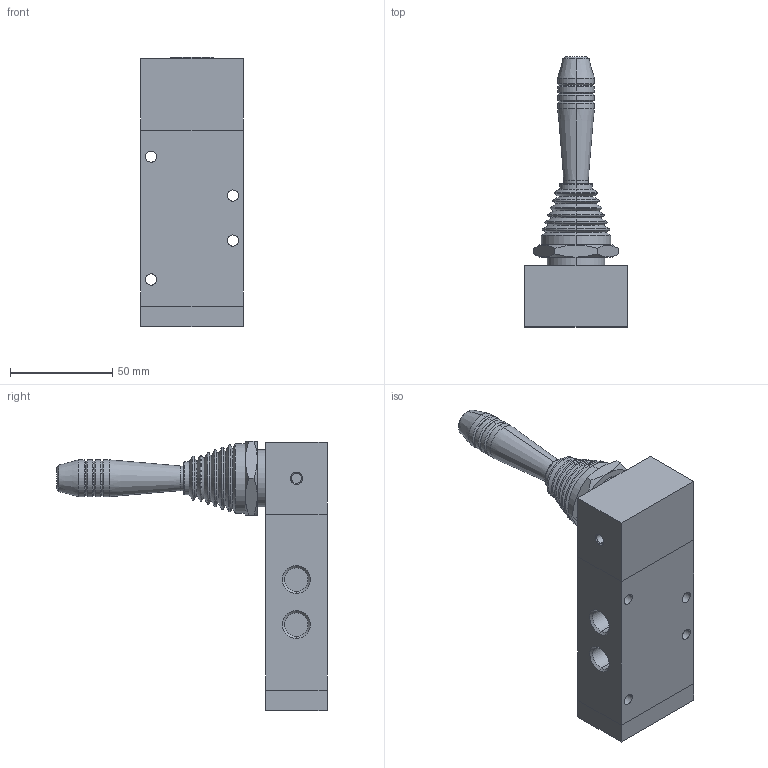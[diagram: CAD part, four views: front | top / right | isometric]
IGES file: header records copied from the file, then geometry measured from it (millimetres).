
Global section: file name: No Iges File Name specified; native system: AutoDesk Inventor R11.0; preprocessor: AutoDesk Inventor Iges Exporter R11.0; author: No Author specified; organization: No Organization specified; date: 20061220.111224; units: millimetre
Bounding box: 50 x 132 x 131.5 mm (x, y, z)
Volume: 224852.9 mm3; surface area: 38638.7 mm2
Topology: 2 solids, 2 shells, 161 faces, 342 edges, 200 vertices
Faces by surface type: cone 48, plane 31, bspline 30, cylinder 20, revolution 18, torus 14
